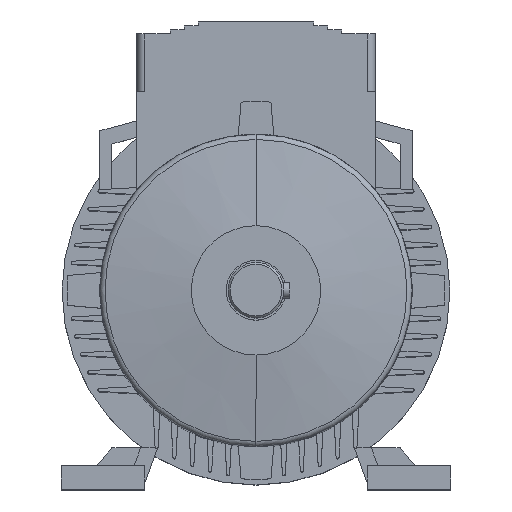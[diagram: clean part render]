
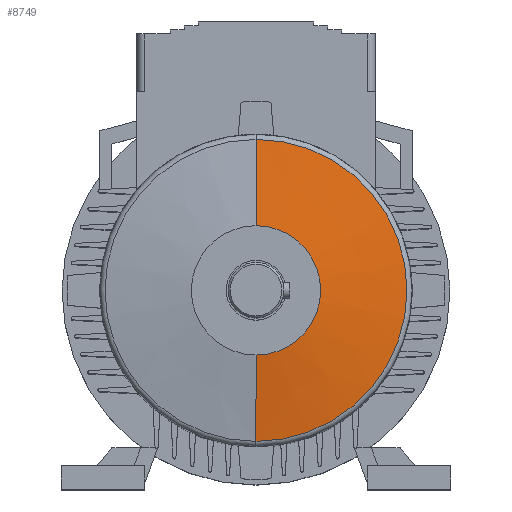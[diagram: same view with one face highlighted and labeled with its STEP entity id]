
A CAD part, top view. The second image highlights one B-rep face of the part: STEP entity #8749.
In plain terms, the highlighted conical face has half-angle 82 degrees and reference radius 54.209 mm.
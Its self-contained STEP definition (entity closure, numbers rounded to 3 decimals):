
#2612=CARTESIAN_POINT('',(0.,0.,21.898));
#2613=DIRECTION('',(0.,0.,1.));
#2614=DIRECTION('',(0.,-1.,0.));
#2615=AXIS2_PLACEMENT_3D('',#2612,#2613,#2614);
#2627=DIRECTION('',(0.,-0.99,0.139));
#2628=VECTOR('',#2627,43.844);
#2629=CARTESIAN_POINT('',(0.,75.918,
21.898));
#2630=LINE('',#2629,#2628);
#2631=DIRECTION('',(0.,0.99,0.139));
#2632=VECTOR('',#2631,43.844);
#2633=CARTESIAN_POINT('',(0.,-75.918,
21.898));
#2634=LINE('',#2633,#2632);
#2663=CARTESIAN_POINT('',(0.,0.,28.));
#2664=DIRECTION('',(0.,0.,-1.));
#2665=DIRECTION('',(0.,1.,0.));
#2666=AXIS2_PLACEMENT_3D('',#2663,#2664,#2665);
#3859=CARTESIAN_POINT('',(0.,32.5,28.));
#3861=VERTEX_POINT('',#3859);
#3867=CARTESIAN_POINT('',(0.,-32.5,28.));
#3869=VERTEX_POINT('',#3867);
#3936=CARTESIAN_POINT('',(0.,75.918,21.898));
#3937=CARTESIAN_POINT('',(0.,-75.918,
21.898));
#3938=VERTEX_POINT('',#3936);
#3939=VERTEX_POINT('',#3937);
#8735=CARTESIAN_POINT('',(0.,0.,24.949));
#8736=DIRECTION('',(0.,0.,-1.));
#8737=DIRECTION('',(0.,-1.,0.));
#8738=AXIS2_PLACEMENT_3D('',#8735,#8736,#8737);
#8739=CONICAL_SURFACE('',#8738,54.209,82.);
#8740=ORIENTED_EDGE('',*,*,#8725,.F.);
#8742=ORIENTED_EDGE('',*,*,#8741,.T.);
#8744=ORIENTED_EDGE('',*,*,#8743,.F.);
#8746=ORIENTED_EDGE('',*,*,#8745,.F.);
#8747=EDGE_LOOP('',(#8740,#8742,#8744,#8746));
#8748=FACE_OUTER_BOUND('',#8747,.F.);
#8749=ADVANCED_FACE('',(#8748),#8739,.T.);
#2616=CIRCLE('',#2615,75.918);
#2667=CIRCLE('',#2666,32.5);
#8725=EDGE_CURVE('',#3939,#3938,#2616,.T.);
#8741=EDGE_CURVE('',#3939,#3869,#2634,.T.);
#8743=EDGE_CURVE('',#3861,#3869,#2667,.T.);
#8745=EDGE_CURVE('',#3938,#3861,#2630,.T.);
